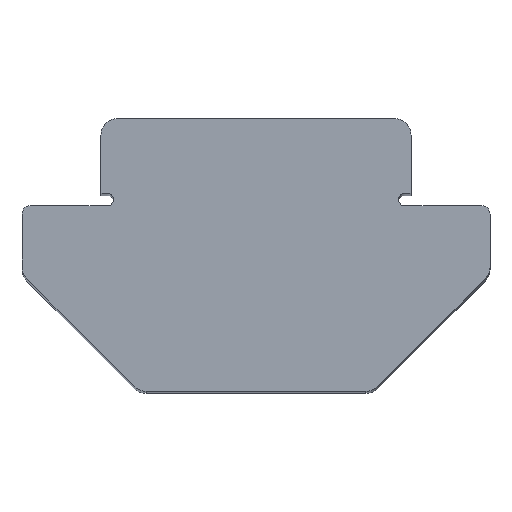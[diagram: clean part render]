
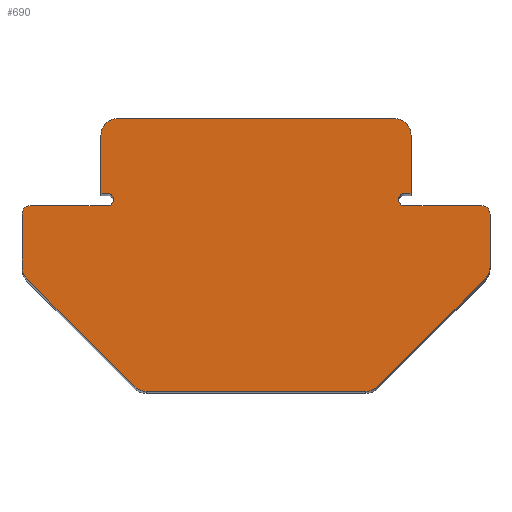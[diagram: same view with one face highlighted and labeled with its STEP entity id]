
A CAD part, top view. The second image highlights one B-rep face of the part: STEP entity #690.
In plain terms, the highlighted planar face has unit normal (0, 0, 1).
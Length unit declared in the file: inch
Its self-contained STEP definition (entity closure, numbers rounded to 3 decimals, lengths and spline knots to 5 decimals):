
#9=DIRECTION('',(1.,0.,0.));
#10=VECTOR('',#9,0.0925);
#11=CARTESIAN_POINT('',(0.179,0.,1.5));
#12=LINE('',#11,#10);
#149=DIRECTION('',(0.,-1.,0.));
#150=VECTOR('',#149,0.07);
#151=CARTESIAN_POINT('',(0.1865,0.085,1.5));
#152=LINE('',#151,#150);
#161=DIRECTION('',(-1.,0.,0.));
#162=VECTOR('',#161,0.0075);
#163=CARTESIAN_POINT('',(0.1865,0.015,1.5));
#164=LINE('',#163,#162);
#165=CARTESIAN_POINT('',(-0.179,0.0075,1.5));
#166=DIRECTION('',(0.,0.,-1.));
#167=DIRECTION('',(0.,1.,0.));
#168=AXIS2_PLACEMENT_3D('',#165,#166,#167);
#170=CARTESIAN_POINT('',(-0.1665,0.085,1.5));
#171=DIRECTION('',(0.,0.,1.));
#172=DIRECTION('',(0.,1.,0.));
#173=AXIS2_PLACEMENT_3D('',#170,#171,#172);
#175=DIRECTION('',(-1.,0.,0.));
#176=VECTOR('',#175,0.333);
#177=CARTESIAN_POINT('',(0.1665,0.105,1.5));
#178=LINE('',#177,#176);
#179=CARTESIAN_POINT('',(0.1665,0.085,1.5));
#180=DIRECTION('',(0.,0.,1.));
#181=DIRECTION('',(1.,0.,0.));
#182=AXIS2_PLACEMENT_3D('',#179,#180,#181);
#184=CARTESIAN_POINT('',(0.179,0.0075,1.5));
#185=DIRECTION('',(0.,0.,-1.));
#186=DIRECTION('',(-1.,0.,0.));
#187=AXIS2_PLACEMENT_3D('',#184,#185,#186);
#189=CARTESIAN_POINT('',(0.179,0.0075,1.5));
#190=DIRECTION('',(0.,0.,-1.));
#191=DIRECTION('',(0.,-1.,0.));
#192=AXIS2_PLACEMENT_3D('',#189,#190,#191);
#194=CARTESIAN_POINT('',(0.2715,-0.01,1.5));
#195=DIRECTION('',(0.,0.,1.));
#196=DIRECTION('',(1.,0.,0.));
#197=AXIS2_PLACEMENT_3D('',#194,#195,#196);
#199=DIRECTION('',(0.,1.,0.));
#200=VECTOR('',#199,0.06372);
#201=CARTESIAN_POINT('',(0.2815,-0.07372,1.5));
#202=LINE('',#201,#200);
#203=CARTESIAN_POINT('',(0.2615,-0.07372,1.5));
#204=DIRECTION('',(0.,0.,1.));
#205=DIRECTION('',(0.707,-0.707,0.));
#206=AXIS2_PLACEMENT_3D('',#203,#204,#205);
#208=DIRECTION('',(0.707,0.707,0.));
#209=VECTOR('',#208,0.18284);
#210=CARTESIAN_POINT('',(0.14636,-0.21714,1.5));
#211=LINE('',#210,#209);
#212=CARTESIAN_POINT('',(0.13222,-0.203,1.5));
#213=DIRECTION('',(0.,0.,1.));
#214=DIRECTION('',(0.,-1.,0.));
#215=AXIS2_PLACEMENT_3D('',#212,#213,#214);
#217=CARTESIAN_POINT('',(-0.13222,-0.203,1.5));
#218=DIRECTION('',(0.,0.,1.));
#219=DIRECTION('',(-0.707,-0.707,0.));
#220=AXIS2_PLACEMENT_3D('',#217,#218,#219);
#222=DIRECTION('',(0.707,-0.707,0.));
#223=VECTOR('',#222,0.18284);
#224=CARTESIAN_POINT('',(-0.27564,-0.08786,1.5));
#225=LINE('',#224,#223);
#226=CARTESIAN_POINT('',(-0.2615,-0.07372,1.5));
#227=DIRECTION('',(0.,0.,1.));
#228=DIRECTION('',(-1.,0.,0.));
#229=AXIS2_PLACEMENT_3D('',#226,#227,#228);
#231=DIRECTION('',(0.,-1.,0.));
#232=VECTOR('',#231,0.06372);
#233=CARTESIAN_POINT('',(-0.2815,-0.01,1.5));
#234=LINE('',#233,#232);
#235=CARTESIAN_POINT('',(-0.2715,-0.01,1.5));
#236=DIRECTION('',(0.,0.,1.));
#237=DIRECTION('',(0.,1.,0.));
#238=AXIS2_PLACEMENT_3D('',#235,#236,#237);
#240=CARTESIAN_POINT('',(-0.179,0.0075,1.5));
#241=DIRECTION('',(0.,0.,-1.));
#242=DIRECTION('',(1.,0.,0.));
#243=AXIS2_PLACEMENT_3D('',#240,#241,#242);
#253=DIRECTION('',(1.,0.,0.));
#254=VECTOR('',#253,0.0925);
#255=CARTESIAN_POINT('',(-0.2715,0.,1.5));
#256=LINE('',#255,#254);
#281=DIRECTION('',(-1.,0.,0.));
#282=VECTOR('',#281,0.26443);
#283=CARTESIAN_POINT('',(0.13222,-0.223,1.5));
#284=LINE('',#283,#282);
#349=DIRECTION('',(-1.,0.,0.));
#350=VECTOR('',#349,0.0075);
#351=CARTESIAN_POINT('',(-0.179,0.015,1.5));
#352=LINE('',#351,#350);
#357=DIRECTION('',(0.,1.,0.));
#358=VECTOR('',#357,0.07);
#359=CARTESIAN_POINT('',(-0.1865,0.015,1.5));
#360=LINE('',#359,#358);
#365=CARTESIAN_POINT('',(-0.179,0.015,1.5));
#366=CARTESIAN_POINT('',(-0.1865,0.015,1.5));
#367=VERTEX_POINT('',#365);
#368=VERTEX_POINT('',#366);
#369=CARTESIAN_POINT('',(0.2815,-0.01,1.5));
#370=VERTEX_POINT('',#369);
#371=CARTESIAN_POINT('',(-0.2715,0.,1.5));
#372=CARTESIAN_POINT('',(-0.2815,-0.01,1.5));
#373=VERTEX_POINT('',#371);
#374=VERTEX_POINT('',#372);
#375=CARTESIAN_POINT('',(0.179,0.,1.5));
#376=CARTESIAN_POINT('',(0.1715,0.0075,1.5));
#377=VERTEX_POINT('',#375);
#378=VERTEX_POINT('',#376);
#379=CARTESIAN_POINT('',(0.179,0.015,1.5));
#380=VERTEX_POINT('',#379);
#381=CARTESIAN_POINT('',(0.27564,-0.08786,1.5));
#383=VERTEX_POINT('',#381);
#389=CARTESIAN_POINT('',(0.1865,0.085,1.5));
#390=CARTESIAN_POINT('',(0.1865,0.015,1.5));
#391=VERTEX_POINT('',#389);
#392=VERTEX_POINT('',#390);
#393=CARTESIAN_POINT('',(-0.1865,0.085,1.5));
#394=VERTEX_POINT('',#393);
#395=CARTESIAN_POINT('',(0.2815,-0.07372,1.5));
#396=VERTEX_POINT('',#395);
#404=CARTESIAN_POINT('',(-0.179,0.,1.5));
#406=VERTEX_POINT('',#404);
#407=CARTESIAN_POINT('',(0.1665,0.105,1.5));
#408=CARTESIAN_POINT('',(-0.1665,0.105,1.5));
#409=VERTEX_POINT('',#407);
#410=VERTEX_POINT('',#408);
#413=CARTESIAN_POINT('',(0.13222,-0.223,1.5));
#414=CARTESIAN_POINT('',(0.14636,-0.21714,1.5));
#415=VERTEX_POINT('',#413);
#416=VERTEX_POINT('',#414);
#425=CARTESIAN_POINT('',(-0.27564,-0.08786,1.5));
#426=VERTEX_POINT('',#425);
#445=CARTESIAN_POINT('',(0.2715,0.,1.5));
#446=VERTEX_POINT('',#445);
#451=CARTESIAN_POINT('',(-0.2815,-0.07372,1.5));
#452=VERTEX_POINT('',#451);
#463=CARTESIAN_POINT('',(-0.13222,-0.223,1.5));
#464=VERTEX_POINT('',#463);
#469=CARTESIAN_POINT('',(-0.14636,-0.21714,1.5));
#470=VERTEX_POINT('',#469);
#471=CARTESIAN_POINT('',(-0.1715,0.0075,1.5));
#472=VERTEX_POINT('',#471);
#643=CARTESIAN_POINT('',(0.,0.,1.5));
#644=DIRECTION('',(0.,0.,1.));
#645=DIRECTION('',(1.,0.,0.));
#646=AXIS2_PLACEMENT_3D('',#643,#644,#645);
#647=PLANE('',#646);
#649=ORIENTED_EDGE('',*,*,#648,.F.);
#651=ORIENTED_EDGE('',*,*,#650,.T.);
#653=ORIENTED_EDGE('',*,*,#652,.T.);
#654=ORIENTED_EDGE('',*,*,#569,.F.);
#655=ORIENTED_EDGE('',*,*,#584,.F.);
#656=ORIENTED_EDGE('',*,*,#610,.F.);
#657=ORIENTED_EDGE('',*,*,#624,.T.);
#658=ORIENTED_EDGE('',*,*,#638,.T.);
#659=ORIENTED_EDGE('',*,*,#482,.F.);
#660=ORIENTED_EDGE('',*,*,#480,.F.);
#661=ORIENTED_EDGE('',*,*,#502,.T.);
#663=ORIENTED_EDGE('',*,*,#662,.F.);
#665=ORIENTED_EDGE('',*,*,#664,.F.);
#667=ORIENTED_EDGE('',*,*,#666,.F.);
#669=ORIENTED_EDGE('',*,*,#668,.F.);
#671=ORIENTED_EDGE('',*,*,#670,.F.);
#673=ORIENTED_EDGE('',*,*,#672,.T.);
#675=ORIENTED_EDGE('',*,*,#674,.F.);
#677=ORIENTED_EDGE('',*,*,#676,.F.);
#679=ORIENTED_EDGE('',*,*,#678,.F.);
#681=ORIENTED_EDGE('',*,*,#680,.F.);
#683=ORIENTED_EDGE('',*,*,#682,.F.);
#685=ORIENTED_EDGE('',*,*,#684,.T.);
#687=ORIENTED_EDGE('',*,*,#686,.F.);
#688=EDGE_LOOP('',(#649,#651,#653,#654,#655,#656,#657,#658,#659,#660,#661,#663,
#665,#667,#669,#671,#673,#675,#677,#679,#681,#683,#685,#687));
#689=FACE_OUTER_BOUND('',#688,.F.);
#169=CIRCLE('',#168,0.0075);
#174=CIRCLE('',#173,0.02);
#183=CIRCLE('',#182,0.02);
#188=CIRCLE('',#187,0.0075);
#193=CIRCLE('',#192,0.0075);
#198=CIRCLE('',#197,0.01);
#207=CIRCLE('',#206,0.02);
#216=CIRCLE('',#215,0.02);
#221=CIRCLE('',#220,0.02);
#230=CIRCLE('',#229,0.02);
#239=CIRCLE('',#238,0.01);
#244=CIRCLE('',#243,0.0075);
#480=EDGE_CURVE('',#377,#378,#193,.T.);
#482=EDGE_CURVE('',#378,#380,#188,.T.);
#502=EDGE_CURVE('',#377,#446,#12,.T.);
#569=EDGE_CURVE('',#410,#394,#174,.T.);
#584=EDGE_CURVE('',#409,#410,#178,.T.);
#610=EDGE_CURVE('',#391,#409,#183,.T.);
#624=EDGE_CURVE('',#391,#392,#152,.T.);
#638=EDGE_CURVE('',#392,#380,#164,.T.);
#648=EDGE_CURVE('',#367,#472,#169,.T.);
#650=EDGE_CURVE('',#367,#368,#352,.T.);
#652=EDGE_CURVE('',#368,#394,#360,.T.);
#662=EDGE_CURVE('',#370,#446,#198,.T.);
#664=EDGE_CURVE('',#396,#370,#202,.T.);
#666=EDGE_CURVE('',#383,#396,#207,.T.);
#668=EDGE_CURVE('',#416,#383,#211,.T.);
#670=EDGE_CURVE('',#415,#416,#216,.T.);
#672=EDGE_CURVE('',#415,#464,#284,.T.);
#674=EDGE_CURVE('',#470,#464,#221,.T.);
#676=EDGE_CURVE('',#426,#470,#225,.T.);
#678=EDGE_CURVE('',#452,#426,#230,.T.);
#680=EDGE_CURVE('',#374,#452,#234,.T.);
#682=EDGE_CURVE('',#373,#374,#239,.T.);
#684=EDGE_CURVE('',#373,#406,#256,.T.);
#686=EDGE_CURVE('',#472,#406,#244,.T.);
#690=ADVANCED_FACE('',(#689),#647,.T.);
